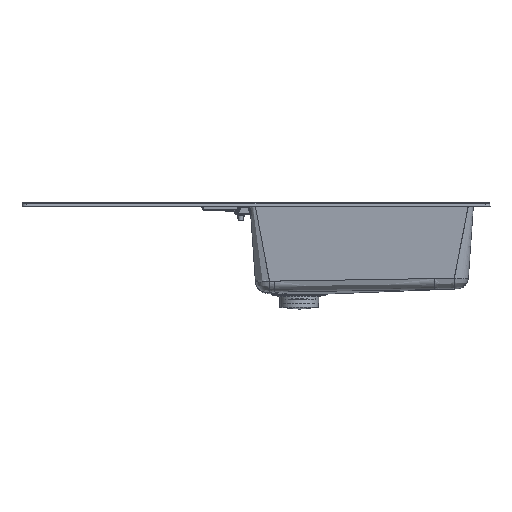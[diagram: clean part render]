
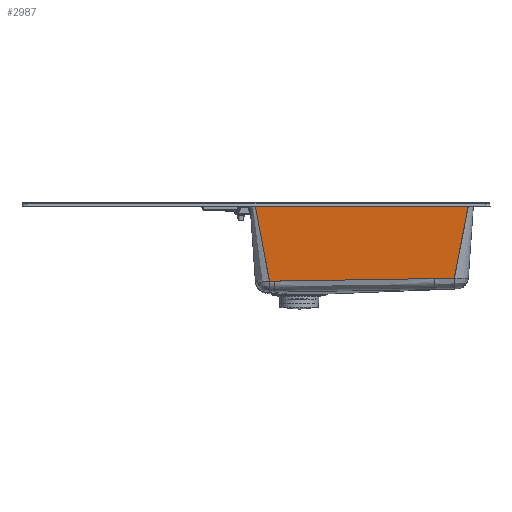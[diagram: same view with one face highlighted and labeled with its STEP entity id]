
A CAD part, front view. The second image highlights one B-rep face of the part: STEP entity #2987.
In plain terms, the highlighted planar face has unit normal (0, -0.998, -0.07).
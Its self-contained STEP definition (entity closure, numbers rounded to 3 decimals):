
#2987=ADVANCED_FACE('',(#3613),#12931,.T.);
#3613=FACE_OUTER_BOUND('',#4240,.T.);
#4240=EDGE_LOOP('',(#5704));
#5704=ORIENTED_EDGE('',*,*,#8418,.T.);
#8418=EDGE_CURVE('',#12061,#12061,#10281,.T.);
#10281=B_SPLINE_CURVE_WITH_KNOTS('',3,(#33521,#33522,#33523,#33524,#33525,
#33526,#33527,#33528,#33529,#33530,#33531,#33532,#33533,#33534,#33535,#33536,
#33537,#33538,#33539,#33540,#33541,#33542,#33543,#33544,#33545,#33546,#33547,
#33548,#33549,#33550,#33551,#33552,#33553,#33554,#33555,#33556,#33557,#33558,
#33559,#33560,#33561,#33562,#33563,#33564,#33565,#33566,#33567,#33568,#33569,
#33570,#33571,#33572,#33573,#33574,#33575,#33576,#33577),.UNSPECIFIED.,
 .T.,.F.,(4,1,1,1,1,1,1,1,1,1,1,1,1,1,1,1,3,3,3,3,1,1,1,1,1,1,1,1,1,1,1,
1,1,1,1,1,1,1,1,1,3,1,1,1,4),(0.,0.063,0.125,0.188,0.25,0.313,0.375,
0.438,0.5,0.563,0.625,0.688,0.75,0.813,0.875,0.938,1.,2.,3.,4.,4.048,
4.095,4.143,4.19,4.238,4.286,
4.333,4.381,4.429,4.476,4.524,
4.571,4.619,4.667,4.714,4.762,
4.81,4.857,4.905,4.952,5.,5.25,
5.5,5.75,6.),.UNSPECIFIED.);
#12061=VERTEX_POINT('',#33520);
#12931=PLANE('',#13003);
#13003=AXIS2_PLACEMENT_3D('',#33519,#13059,$);
#13059=DIRECTION('',(0.,-0.998,-0.07));
#33519=CARTESIAN_POINT('',(-61.733,-279.461,1.449));
#33520=CARTESIAN_POINT('',(331.342,-268.041,-161.864));
#33521=CARTESIAN_POINT('',(331.342,-268.041,-161.864));
#33522=CARTESIAN_POINT('',(331.806,-268.041,-161.856));
#33523=CARTESIAN_POINT('',(332.727,-268.042,-161.84));
#33524=CARTESIAN_POINT('',(334.064,-268.044,-161.815));
#33525=CARTESIAN_POINT('',(335.427,-268.046,-161.788));
#33526=CARTESIAN_POINT('',(336.852,-268.048,-161.758));
#33527=CARTESIAN_POINT('',(338.389,-268.051,-161.724));
#33528=CARTESIAN_POINT('',(340.083,-268.053,-161.685));
#33529=CARTESIAN_POINT('',(341.981,-268.056,-161.639));
#33530=CARTESIAN_POINT('',(344.122,-268.06,-161.586));
#33531=CARTESIAN_POINT('',(346.527,-268.065,-161.524));
#33532=CARTESIAN_POINT('',(349.209,-268.069,-161.453));
#33533=CARTESIAN_POINT('',(352.199,-268.075,-161.371));
#33534=CARTESIAN_POINT('',(355.55,-268.082,-161.276));
#33535=CARTESIAN_POINT('',(359.318,-268.09,-161.167));
#33536=CARTESIAN_POINT('',(363.557,-268.098,-161.04));
#33537=CARTESIAN_POINT('',(368.314,-268.109,-160.894));
#33538=CARTESIAN_POINT('',(371.889,-268.117,-160.781));
#33539=CARTESIAN_POINT('',(373.772,-268.121,-160.72));
#33540=CARTESIAN_POINT('',(384.041,-271.824,-107.767));
#33541=CARTESIAN_POINT('',(394.309,-275.526,-54.814));
#33542=CARTESIAN_POINT('',(404.578,-279.229,-1.86));
#33543=CARTESIAN_POINT('',(252.189,-279.229,-1.86));
#33544=CARTESIAN_POINT('',(99.8,-279.229,-1.86));
#33545=CARTESIAN_POINT('',(-52.589,-279.229,-1.86));
#33546=CARTESIAN_POINT('',(-42.139,-275.373,-57.008));
#33547=CARTESIAN_POINT('',(-31.688,-271.517,-112.156));
#33548=CARTESIAN_POINT('',(-21.238,-267.66,-167.304));
#33549=CARTESIAN_POINT('',(-21.033,-267.66,-167.306));
#33550=CARTESIAN_POINT('',(-20.631,-267.66,-167.309));
#33551=CARTESIAN_POINT('',(-20.05,-267.66,-167.312));
#33552=CARTESIAN_POINT('',(-19.488,-267.66,-167.314));
#33553=CARTESIAN_POINT('',(-18.943,-267.66,-167.315));
#33554=CARTESIAN_POINT('',(-18.414,-267.66,-167.315));
#33555=CARTESIAN_POINT('',(-17.898,-267.66,-167.315));
#33556=CARTESIAN_POINT('',(-17.394,-267.66,-167.314));
#33557=CARTESIAN_POINT('',(-16.9,-267.66,-167.312));
#33558=CARTESIAN_POINT('',(-16.415,-267.66,-167.309));
#33559=CARTESIAN_POINT('',(-15.938,-267.66,-167.306));
#33560=CARTESIAN_POINT('',(-15.467,-267.66,-167.303));
#33561=CARTESIAN_POINT('',(-15.,-267.661,-167.299));
#33562=CARTESIAN_POINT('',(-14.536,-267.661,-167.294));
#33563=CARTESIAN_POINT('',(-14.075,-267.661,-167.289));
#33564=CARTESIAN_POINT('',(-13.614,-267.662,-167.284));
#33565=CARTESIAN_POINT('',(-13.153,-267.662,-167.278));
#33566=CARTESIAN_POINT('',(-12.69,-267.663,-167.272));
#33567=CARTESIAN_POINT('',(-12.225,-267.663,-167.266));
#33568=CARTESIAN_POINT('',(-11.755,-267.663,-167.259));
#33569=CARTESIAN_POINT('',(-11.279,-267.664,-167.253));
#33570=CARTESIAN_POINT('',(-10.958,-267.664,-167.248));
#33571=CARTESIAN_POINT('',(-10.796,-267.664,-167.246));
#33572=CARTESIAN_POINT('',(12.635,-267.689,-166.898));
#33573=CARTESIAN_POINT('',(61.687,-267.74,-166.162));
#33574=CARTESIAN_POINT('',(141.151,-267.826,-164.931));
#33575=CARTESIAN_POINT('',(228.57,-267.924,-163.539));
#33576=CARTESIAN_POINT('',(295.796,-268.,-162.446));
#33577=CARTESIAN_POINT('',(331.342,-268.041,-161.864));
